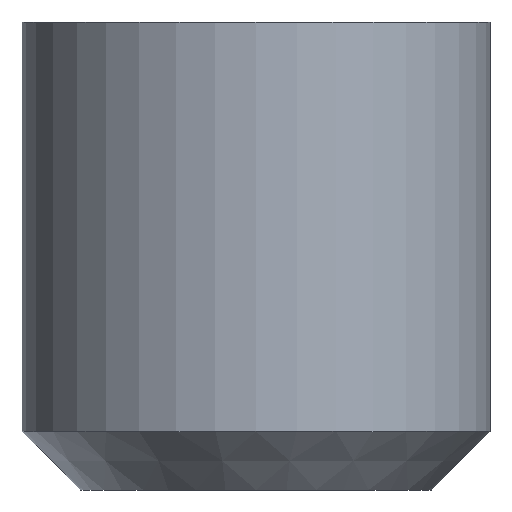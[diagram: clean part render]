
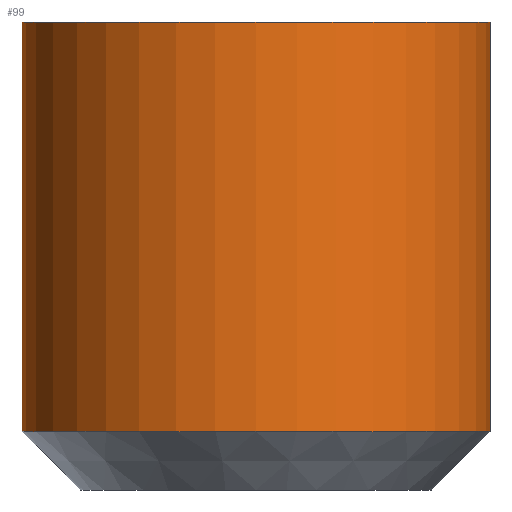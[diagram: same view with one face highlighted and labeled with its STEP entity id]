
A CAD part, left-side view. The second image highlights one B-rep face of the part: STEP entity #99.
In plain terms, the highlighted cylindrical face has radius 4 mm (diameter 8 mm), a full revolution.
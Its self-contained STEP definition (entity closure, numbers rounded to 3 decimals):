
#23=FACE_OUTER_BOUND('',#29,.T.);
#29=EDGE_LOOP('',(#81,#82,#83,#84,#85));
#37=LINE('',#191,#41);
#41=VECTOR('',#161,4.);
#46=CIRCLE('',#128,4.);
#47=CIRCLE('',#129,4.);
#49=CIRCLE('',#132,4.);
#54=VERTEX_POINT('',#181);
#55=VERTEX_POINT('',#182);
#57=VERTEX_POINT('',#189);
#63=EDGE_CURVE('',#54,#55,#46,.T.);
#64=EDGE_CURVE('',#55,#54,#47,.T.);
#67=EDGE_CURVE('',#57,#57,#49,.T.);
#68=EDGE_CURVE('',#57,#55,#37,.T.);
#81=ORIENTED_EDGE('',*,*,#67,.F.);
#82=ORIENTED_EDGE('',*,*,#68,.T.);
#83=ORIENTED_EDGE('',*,*,#63,.F.);
#84=ORIENTED_EDGE('',*,*,#64,.F.);
#85=ORIENTED_EDGE('',*,*,#68,.F.);
#96=CYLINDRICAL_SURFACE('',#131,4.);
#99=ADVANCED_FACE('',(#23),#96,.T.);
#128=AXIS2_PLACEMENT_3D('',#183,#150,#151);
#129=AXIS2_PLACEMENT_3D('',#184,#152,#153);
#131=AXIS2_PLACEMENT_3D('',#188,#157,#158);
#132=AXIS2_PLACEMENT_3D('',#190,#159,#160);
#150=DIRECTION('center_axis',(0.,0.,-1.));
#151=DIRECTION('ref_axis',(-1.,0.,0.));
#152=DIRECTION('center_axis',(0.,0.,-1.));
#153=DIRECTION('ref_axis',(-1.,0.,0.));
#157=DIRECTION('center_axis',(0.,0.,1.));
#158=DIRECTION('ref_axis',(1.,0.,0.));
#159=DIRECTION('center_axis',(0.,0.,1.));
#160=DIRECTION('ref_axis',(1.,0.,0.));
#161=DIRECTION('',(0.,0.,-1.));
#181=CARTESIAN_POINT('',(4.,0.,1.));
#182=CARTESIAN_POINT('',(-4.,0.,1.));
#183=CARTESIAN_POINT('Origin',(0.,0.,1.));
#184=CARTESIAN_POINT('Origin',(0.,0.,1.));
#188=CARTESIAN_POINT('Origin',(0.,0.,0.));
#189=CARTESIAN_POINT('',(-4.,0.,8.));
#190=CARTESIAN_POINT('Origin',(0.,0.,8.));
#191=CARTESIAN_POINT('',(-4.,0.,0.));
